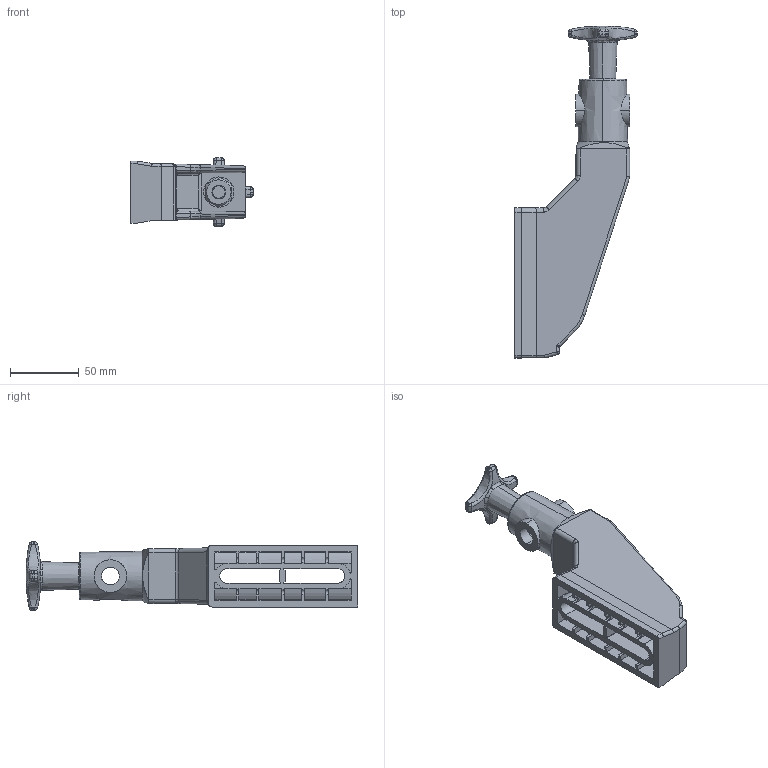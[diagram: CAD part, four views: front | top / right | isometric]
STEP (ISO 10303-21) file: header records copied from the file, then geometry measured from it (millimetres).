
FILE_DESCRIPTION (( 'STEP AP214' ), '1' );
FILE_NAME ('GH5 3.step', '2017-04-05T07:49:12', ( '' ), ( '' ), 'SwSTEP 2.0', 'SolidWorks 2015', '' );
FILE_SCHEMA (( 'AUTOMOTIVE_DESIGN' ));
Length unit declared in the file: millimetre
Products named in the file (1): GH5 3
Bounding box: 89 x 241.34 x 49.92 mm (x, y, z)
Volume: 220057.3 mm3; surface area: 72173 mm2
Topology: 1 solids, 2 shells, 905 faces, 2501 edges, 1635 vertices
Faces by surface type: plane 675, cylinder 118, bspline 95, cone 15, torus 2
Entity records: 39306 total; most frequent: CARTESIAN_POINT 17078, ORIENTED_EDGE 4998, DIRECTION 3874, EDGE_CURVE 2499, LINE 1952, VECTOR 1952, VERTEX_POINT 1635, AXIS2_PLACEMENT_3D 961
